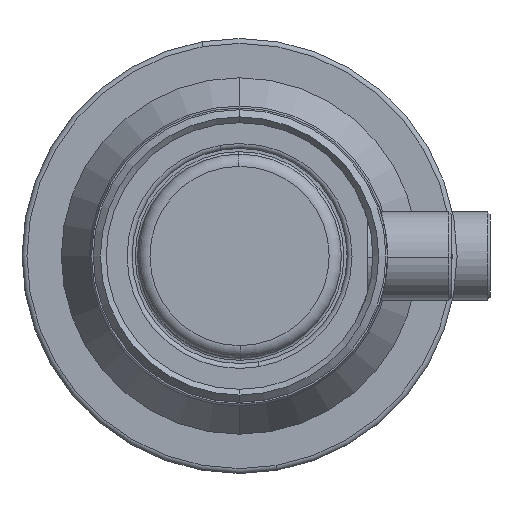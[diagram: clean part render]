
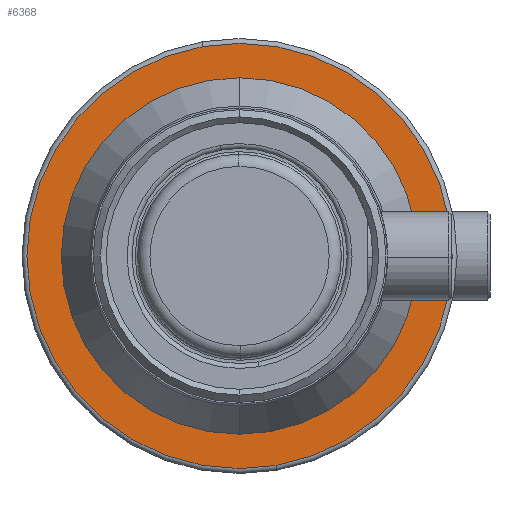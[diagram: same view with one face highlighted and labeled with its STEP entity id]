
A CAD part, front view. The second image highlights one B-rep face of the part: STEP entity #6368.
In plain terms, the highlighted planar face has unit normal (0, -1, 0).
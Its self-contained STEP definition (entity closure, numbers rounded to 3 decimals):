
#28 = CARTESIAN_POINT ( 'NONE',  ( 0., 4.5, 0. ) ) ;
#455 = EDGE_LOOP ( 'NONE', ( #9351, #20145 ) ) ;
#1403 = FACE_OUTER_BOUND ( 'NONE', #455, .T. ) ;
#1451 = CARTESIAN_POINT ( 'NONE',  ( 0., 4.5, 43.3 ) ) ;
#2006 = AXIS2_PLACEMENT_3D ( 'NONE', #16566, #19904, #10290 ) ;
#4264 = AXIS2_PLACEMENT_3D ( 'NONE', #28, #6557, #5004 ) ;
#4523 = DIRECTION ( 'NONE',  ( 0., -1., 0. ) ) ;
#5004 = DIRECTION ( 'NONE',  ( 0., 0., -1. ) ) ;
#6368 = ADVANCED_FACE ( 'NONE', ( #1403, #10538 ), #19517, .T. ) ;
#6374 = EDGE_CURVE ( 'NONE', #11067, #14427, #17654, .T. ) ;
#6557 = DIRECTION ( 'NONE',  ( 0., -1., 0. ) ) ;
#6627 = CARTESIAN_POINT ( 'NONE',  ( 29.95, 4.5, 0. ) ) ;
#7978 = ORIENTED_EDGE ( 'NONE', *, *, #20416, .F. ) ;
#8731 = CARTESIAN_POINT ( 'NONE',  ( 0., 4.5, 0. ) ) ;
#9351 = ORIENTED_EDGE ( 'NONE', *, *, #6374, .T. ) ;
#9969 = CARTESIAN_POINT ( 'NONE',  ( 0., 4.5, 29.95 ) ) ;
#10290 = DIRECTION ( 'NONE',  ( 0., 0., -1. ) ) ;
#10538 = FACE_BOUND ( 'NONE', #10816, .T. ) ;
#10816 = EDGE_LOOP ( 'NONE', ( #7978, #14411 ) ) ;
#11067 = VERTEX_POINT ( 'NONE', #18567 ) ;
#11164 = CIRCLE ( 'NONE', #17049, 29.95 ) ;
#12450 = CARTESIAN_POINT ( 'NONE',  ( 0., 4.5, 0. ) ) ;
#13839 = VERTEX_POINT ( 'NONE', #9969 ) ;
#14411 = ORIENTED_EDGE ( 'NONE', *, *, #14831, .F. ) ;
#14427 = VERTEX_POINT ( 'NONE', #1451 ) ;
#14485 = CIRCLE ( 'NONE', #2006, 29.95 ) ;
#14831 = EDGE_CURVE ( 'NONE', #13839, #16146, #14485, .T. ) ;
#14947 = EDGE_CURVE ( 'NONE', #14427, #11067, #18059, .T. ) ;
#15916 = DIRECTION ( 'NONE',  ( 0., 0., -1. ) ) ;
#16146 = VERTEX_POINT ( 'NONE', #19844 ) ;
#16312 = DIRECTION ( 'NONE',  ( 0., -1., 0. ) ) ;
#16566 = CARTESIAN_POINT ( 'NONE',  ( 0., 4.5, 0. ) ) ;
#16585 = AXIS2_PLACEMENT_3D ( 'NONE', #8731, #19974, #20113 ) ;
#17049 = AXIS2_PLACEMENT_3D ( 'NONE', #12450, #4523, #15916 ) ;
#17654 = CIRCLE ( 'NONE', #4264, 43.3 ) ;
#18059 = CIRCLE ( 'NONE', #16585, 43.3 ) ;
#18081 = DIRECTION ( 'NONE',  ( 0., 0., -1. ) ) ;
#18567 = CARTESIAN_POINT ( 'NONE',  ( 0., 4.5, -43.3 ) ) ;
#19517 = PLANE ( 'NONE',  #20235 ) ;
#19844 = CARTESIAN_POINT ( 'NONE',  ( 0., 4.5, -29.95 ) ) ;
#19904 = DIRECTION ( 'NONE',  ( 0., -1., 0. ) ) ;
#19974 = DIRECTION ( 'NONE',  ( 0., -1., 0. ) ) ;
#20113 = DIRECTION ( 'NONE',  ( 0., 0., -1. ) ) ;
#20145 = ORIENTED_EDGE ( 'NONE', *, *, #14947, .T. ) ;
#20235 = AXIS2_PLACEMENT_3D ( 'NONE', #6627, #16312, #18081 ) ;
#20416 = EDGE_CURVE ( 'NONE', #16146, #13839, #11164, .T. ) ;
